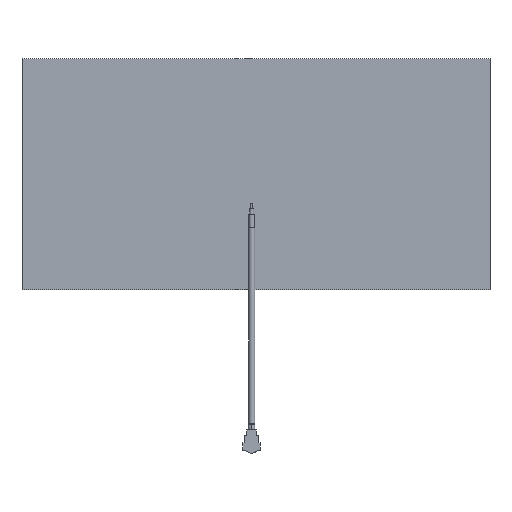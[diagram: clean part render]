
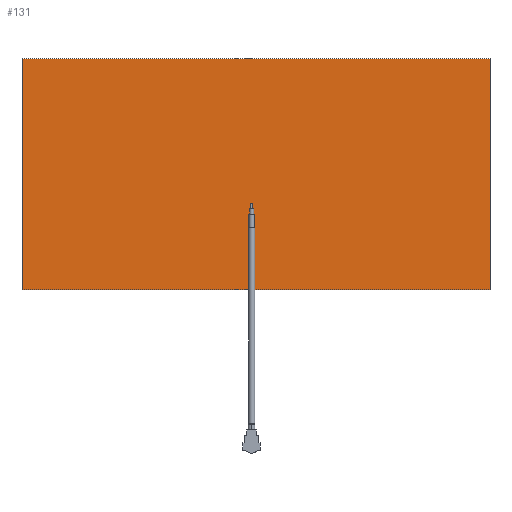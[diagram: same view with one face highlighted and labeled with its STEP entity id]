
A CAD part, top view. The second image highlights one B-rep face of the part: STEP entity #131.
In plain terms, the highlighted planar face has unit normal (0, 0, 1).
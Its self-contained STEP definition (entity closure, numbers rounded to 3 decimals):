
#15=DIRECTION('',(0.,1.,0.));
#16=VECTOR('',#15,42.101);
#17=CARTESIAN_POINT('',(-85.2,-0.3,0.));
#18=LINE('',#17,#16);
#23=DIRECTION('',(1.,0.,0.));
#24=VECTOR('',#23,85.2);
#25=CARTESIAN_POINT('',(-85.2,41.801,0.));
#26=LINE('',#25,#24);
#30=DIRECTION('',(0.,-1.,0.));
#31=VECTOR('',#30,42.101);
#32=CARTESIAN_POINT('',(0.,41.801,0.));
#33=LINE('',#32,#31);
#37=DIRECTION('',(-1.,0.,0.));
#38=VECTOR('',#37,85.2);
#39=CARTESIAN_POINT('',(0.,-0.3,0.));
#40=LINE('',#39,#38);
#100=CARTESIAN_POINT('',(-85.2,-0.3,0.));
#101=CARTESIAN_POINT('',(-85.2,41.801,0.));
#102=VERTEX_POINT('',#100);
#103=VERTEX_POINT('',#101);
#104=CARTESIAN_POINT('',(0.,41.801,0.));
#105=VERTEX_POINT('',#104);
#106=CARTESIAN_POINT('',(0.,-0.3,0.));
#107=VERTEX_POINT('',#106);
#116=CARTESIAN_POINT('',(0.,0.,0.));
#117=DIRECTION('',(0.,0.,1.));
#118=DIRECTION('',(1.,0.,0.));
#119=AXIS2_PLACEMENT_3D('',#116,#117,#118);
#120=PLANE('',#119);
#122=ORIENTED_EDGE('',*,*,#121,.T.);
#124=ORIENTED_EDGE('',*,*,#123,.T.);
#126=ORIENTED_EDGE('',*,*,#125,.T.);
#128=ORIENTED_EDGE('',*,*,#127,.T.);
#129=EDGE_LOOP('',(#122,#124,#126,#128));
#130=FACE_OUTER_BOUND('',#129,.F.);
#121=EDGE_CURVE('',#102,#103,#18,.T.);
#123=EDGE_CURVE('',#103,#105,#26,.T.);
#125=EDGE_CURVE('',#105,#107,#33,.T.);
#127=EDGE_CURVE('',#107,#102,#40,.T.);
#131=ADVANCED_FACE('',(#130),#120,.T.);
